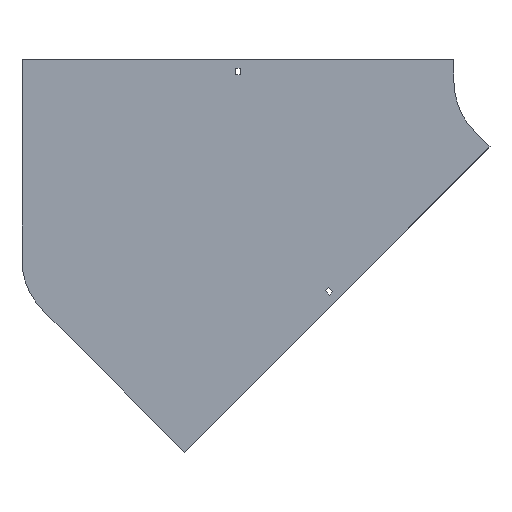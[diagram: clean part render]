
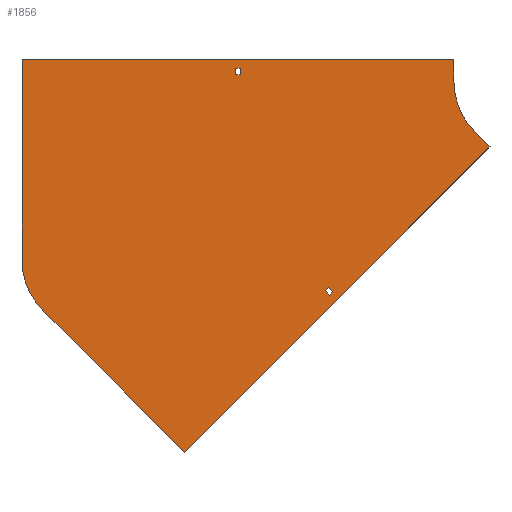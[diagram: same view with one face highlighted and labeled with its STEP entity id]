
A CAD part, front view. The second image highlights one B-rep face of the part: STEP entity #1856.
In plain terms, the highlighted planar face has unit normal (0, -1, 0).
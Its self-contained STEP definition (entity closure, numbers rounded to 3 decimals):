
#3 = VERTEX_POINT ( 'NONE', #1195 ) ;
#50 = VERTEX_POINT ( 'NONE', #849 ) ;
#85 = EDGE_CURVE ( 'NONE', #86, #3, #502, .T. ) ;
#86 = VERTEX_POINT ( 'NONE', #970 ) ;
#110 = CARTESIAN_POINT ( 'NONE',  ( -704., 0., -250.185 ) ) ;
#125 = VECTOR ( 'NONE', #1262, 1000. ) ;
#131 = CARTESIAN_POINT ( 'NONE',  ( -398.75, 0., 18. ) ) ;
#134 = FACE_BOUND ( 'NONE', #1129, .T. ) ;
#146 = CARTESIAN_POINT ( 'NONE',  ( -273.827, 0., -299.283 ) ) ;
#152 = VECTOR ( 'NONE', #1699, 1000. ) ;
#156 = CARTESIAN_POINT ( 'NONE',  ( -405.25, 0., 9. ) ) ;
#162 = CARTESIAN_POINT ( 'NONE',  ( -100., 0., 30. ) ) ;
#164 = CARTESIAN_POINT ( 'NONE',  ( -604., 0., -250.185 ) ) ;
#174 = LINE ( 'NONE', #1350, #269 ) ;
#176 = ORIENTED_EDGE ( 'NONE', *, *, #372, .T. ) ;
#179 = EDGE_CURVE ( 'NONE', #1222, #50, #1254, .T. ) ;
#183 = CARTESIAN_POINT ( 'NONE',  ( -476.59, 0., -519.016 ) ) ;
#219 = AXIS2_PLACEMENT_3D ( 'NONE', #428, #1143, #876 ) ;
#242 = CARTESIAN_POINT ( 'NONE',  ( -70.711, 0., -70.711 ) ) ;
#244 = CARTESIAN_POINT ( 'NONE',  ( -405.25, 0., 9. ) ) ;
#252 = ORIENTED_EDGE ( 'NONE', *, *, #1061, .F. ) ;
#269 = VECTOR ( 'NONE', #1207, 1000. ) ;
#272 = CARTESIAN_POINT ( 'NONE',  ( -269.231, 0., -294.687 ) ) ;
#273 = DIRECTION ( 'NONE',  ( 0., 0., -1. ) ) ;
#358 = CARTESIAN_POINT ( 'NONE',  ( -674.711, 0., -320.896 ) ) ;
#362 = CARTESIAN_POINT ( 'NONE',  ( -398.75, 0., 9. ) ) ;
#372 = EDGE_CURVE ( 'NONE', #798, #846, #1689, .T. ) ;
#400 = LINE ( 'NONE', #1896, #1912 ) ;
#412 = ORIENTED_EDGE ( 'NONE', *, *, #633, .T. ) ;
#415 = EDGE_CURVE ( 'NONE', #1118, #86, #1696, .T. ) ;
#428 = CARTESIAN_POINT ( 'NONE',  ( 0., 0., 0. ) ) ;
#450 = ORIENTED_EDGE ( 'NONE', *, *, #1361, .F. ) ;
#473 = LINE ( 'NONE', #183, #1709 ) ;
#500 = EDGE_CURVE ( 'NONE', #1514, #1118, #1048, .T. ) ;
#502 = LINE ( 'NONE', #1386, #152 ) ;
#503 = ORIENTED_EDGE ( 'NONE', *, *, #1023, .F. ) ;
#510 = LINE ( 'NONE', #1093, #840 ) ;
#586 = LINE ( 'NONE', #1171, #1142 ) ;
#612 = CARTESIAN_POINT ( 'NONE',  ( 0., 0., 0. ) ) ;
#631 = ORIENTED_EDGE ( 'NONE', *, *, #805, .T. ) ;
#633 = EDGE_CURVE ( 'NONE', #1037, #1846, #510, .T. ) ;
#654 = VECTOR ( 'NONE', #1105, 1000. ) ;
#695 = ORIENTED_EDGE ( 'NONE', *, *, #929, .F. ) ;
#701 = EDGE_CURVE ( 'NONE', #846, #1037, #1125, .T. ) ;
#709 = EDGE_CURVE ( 'NONE', #831, #1514, #827, .T. ) ;
#713 = ORIENTED_EDGE ( 'NONE', *, *, #709, .F. ) ;
#730 = VERTEX_POINT ( 'NONE', #1913 ) ;
#735 = CIRCLE ( 'NONE', #1916, 100. ) ;
#756 = CARTESIAN_POINT ( 'NONE',  ( -280.191, 0., -292.919 ) ) ;
#798 = VERTEX_POINT ( 'NONE', #131 ) ;
#802 = ORIENTED_EDGE ( 'NONE', *, *, #500, .F. ) ;
#805 = EDGE_CURVE ( 'NONE', #1846, #798, #1810, .T. ) ;
#827 = LINE ( 'NONE', #1736, #125 ) ;
#831 = VERTEX_POINT ( 'NONE', #162 ) ;
#837 = DIRECTION ( 'NONE',  ( -1., 0., 0. ) ) ;
#840 = VECTOR ( 'NONE', #1708, 1000. ) ;
#846 = VERTEX_POINT ( 'NONE', #1765 ) ;
#849 = CARTESIAN_POINT ( 'NONE',  ( -275.595, 0., -288.323 ) ) ;
#876 = DIRECTION ( 'NONE',  ( 0., 0., -1. ) ) ;
#886 = EDGE_CURVE ( 'NONE', #1722, #1355, #586, .T. ) ;
#910 = ORIENTED_EDGE ( 'NONE', *, *, #945, .F. ) ;
#915 = CARTESIAN_POINT ( 'NONE',  ( -704., 0., 30. ) ) ;
#929 = EDGE_CURVE ( 'NONE', #730, #1784, #1024, .T. ) ;
#945 = EDGE_CURVE ( 'NONE', #3, #1392, #473, .T. ) ;
#956 = ORIENTED_EDGE ( 'NONE', *, *, #179, .F. ) ;
#970 = CARTESIAN_POINT ( 'NONE',  ( -49.497, 0., -91.924 ) ) ;
#1021 = DIRECTION ( 'NONE',  ( 1., 0., 0. ) ) ;
#1023 = EDGE_CURVE ( 'NONE', #50, #730, #1324, .T. ) ;
#1024 = LINE ( 'NONE', #1781, #1625 ) ;
#1034 = PLANE ( 'NONE',  #1611 ) ;
#1037 = VERTEX_POINT ( 'NONE', #156 ) ;
#1045 = EDGE_LOOP ( 'NONE', ( #1420, #1550, #252, #910, #1484, #1521, #802, #713 ) ) ;
#1048 = CIRCLE ( 'NONE', #219, 100. ) ;
#1061 = EDGE_CURVE ( 'NONE', #1392, #1722, #735, .T. ) ;
#1072 = DIRECTION ( 'NONE',  ( 0., 0., -1. ) ) ;
#1077 = CARTESIAN_POINT ( 'NONE',  ( -70.711, 0., -70.711 ) ) ;
#1093 = CARTESIAN_POINT ( 'NONE',  ( -405.25, 0., 9. ) ) ;
#1105 = DIRECTION ( 'NONE',  ( -0.707, 0., 0.707 ) ) ;
#1118 = VERTEX_POINT ( 'NONE', #1077 ) ;
#1125 = LINE ( 'NONE', #244, #1301 ) ;
#1129 = EDGE_LOOP ( 'NONE', ( #412, #631, #176, #1235 ) ) ;
#1142 = VECTOR ( 'NONE', #1787, 1000. ) ;
#1143 = DIRECTION ( 'NONE',  ( 0., -1., 0. ) ) ;
#1159 = EDGE_LOOP ( 'NONE', ( #450, #695, #503, #956 ) ) ;
#1166 = FACE_OUTER_BOUND ( 'NONE', #1045, .T. ) ;
#1171 = CARTESIAN_POINT ( 'NONE',  ( -704., 0., -250.185 ) ) ;
#1176 = FACE_BOUND ( 'NONE', #1159, .T. ) ;
#1195 = CARTESIAN_POINT ( 'NONE',  ( -476.59, 0., -519.016 ) ) ;
#1207 = DIRECTION ( 'NONE',  ( 0.707, 0., 0.707 ) ) ;
#1222 = VERTEX_POINT ( 'NONE', #272 ) ;
#1230 = VECTOR ( 'NONE', #1250, 1000. ) ;
#1231 = VECTOR ( 'NONE', #1021, 1000. ) ;
#1235 = ORIENTED_EDGE ( 'NONE', *, *, #701, .T. ) ;
#1250 = DIRECTION ( 'NONE',  ( 0.707, 0., -0.707 ) ) ;
#1254 = LINE ( 'NONE', #1881, #654 ) ;
#1262 = DIRECTION ( 'NONE',  ( 0., 0., -1. ) ) ;
#1301 = VECTOR ( 'NONE', #837, 1000. ) ;
#1324 = LINE ( 'NONE', #756, #1653 ) ;
#1327 = DIRECTION ( 'NONE',  ( 0., -1., 0. ) ) ;
#1350 = CARTESIAN_POINT ( 'NONE',  ( -273.827, 0., -299.283 ) ) ;
#1354 = CARTESIAN_POINT ( 'NONE',  ( -100., 0., 0. ) ) ;
#1355 = VERTEX_POINT ( 'NONE', #915 ) ;
#1361 = EDGE_CURVE ( 'NONE', #1784, #1222, #174, .T. ) ;
#1386 = CARTESIAN_POINT ( 'NONE',  ( -49.497, 0., -91.924 ) ) ;
#1392 = VERTEX_POINT ( 'NONE', #358 ) ;
#1416 = DIRECTION ( 'NONE',  ( 1., 0., 0. ) ) ;
#1420 = ORIENTED_EDGE ( 'NONE', *, *, #1719, .F. ) ;
#1423 = VECTOR ( 'NONE', #1072, 1000. ) ;
#1484 = ORIENTED_EDGE ( 'NONE', *, *, #85, .F. ) ;
#1502 = DIRECTION ( 'NONE',  ( -0.707, 0., -0.707 ) ) ;
#1514 = VERTEX_POINT ( 'NONE', #1354 ) ;
#1521 = ORIENTED_EDGE ( 'NONE', *, *, #415, .F. ) ;
#1534 = DIRECTION ( 'NONE',  ( 0., 0., 1. ) ) ;
#1550 = ORIENTED_EDGE ( 'NONE', *, *, #886, .F. ) ;
#1611 = AXIS2_PLACEMENT_3D ( 'NONE', #612, #1327, #273 ) ;
#1625 = VECTOR ( 'NONE', #1801, 1000. ) ;
#1653 = VECTOR ( 'NONE', #1502, 1000. ) ;
#1666 = DIRECTION ( 'NONE',  ( -0.707, 0., 0.707 ) ) ;
#1689 = LINE ( 'NONE', #362, #1423 ) ;
#1696 = LINE ( 'NONE', #242, #1230 ) ;
#1699 = DIRECTION ( 'NONE',  ( -0.707, 0., -0.707 ) ) ;
#1708 = DIRECTION ( 'NONE',  ( 0., 0., 1. ) ) ;
#1709 = VECTOR ( 'NONE', #1666, 1000. ) ;
#1719 = EDGE_CURVE ( 'NONE', #1355, #831, #400, .T. ) ;
#1722 = VERTEX_POINT ( 'NONE', #110 ) ;
#1736 = CARTESIAN_POINT ( 'NONE',  ( -100., 0., 30. ) ) ;
#1765 = CARTESIAN_POINT ( 'NONE',  ( -398.75, 0., 9. ) ) ;
#1781 = CARTESIAN_POINT ( 'NONE',  ( -280.191, 0., -292.919 ) ) ;
#1784 = VERTEX_POINT ( 'NONE', #146 ) ;
#1787 = DIRECTION ( 'NONE',  ( 0., 0., 1. ) ) ;
#1801 = DIRECTION ( 'NONE',  ( 0.707, 0., -0.707 ) ) ;
#1805 = CARTESIAN_POINT ( 'NONE',  ( -405.25, 0., 18. ) ) ;
#1810 = LINE ( 'NONE', #1937, #1231 ) ;
#1811 = DIRECTION ( 'NONE',  ( 0., 1., 0. ) ) ;
#1846 = VERTEX_POINT ( 'NONE', #1805 ) ;
#1856 = ADVANCED_FACE ( 'NONE', ( #134, #1166, #1176 ), #1034, .T. ) ;
#1881 = CARTESIAN_POINT ( 'NONE',  ( -275.595, 0., -288.323 ) ) ;
#1896 = CARTESIAN_POINT ( 'NONE',  ( -704., 0., 30. ) ) ;
#1912 = VECTOR ( 'NONE', #1416, 1000. ) ;
#1913 = CARTESIAN_POINT ( 'NONE',  ( -280.191, 0., -292.919 ) ) ;
#1916 = AXIS2_PLACEMENT_3D ( 'NONE', #164, #1811, #1534 ) ;
#1937 = CARTESIAN_POINT ( 'NONE',  ( -405.25, 0., 18. ) ) ;
